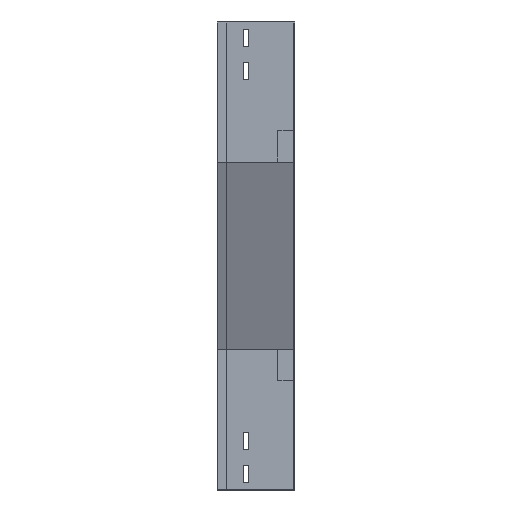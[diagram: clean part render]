
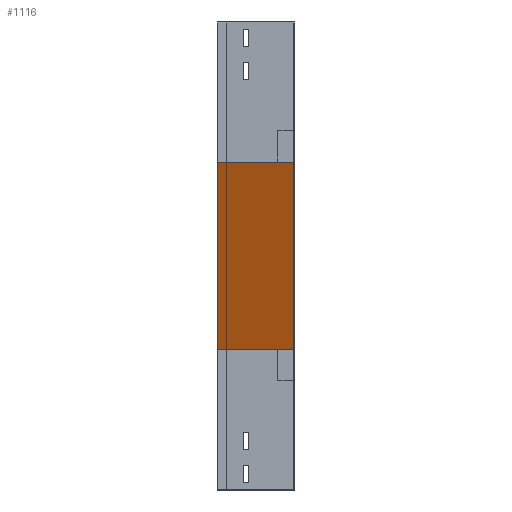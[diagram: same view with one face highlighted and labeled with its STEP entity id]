
A CAD part, left-side view. The second image highlights one B-rep face of the part: STEP entity #1116.
In plain terms, the highlighted planar face has unit normal (-0.923, 0, -0.385).
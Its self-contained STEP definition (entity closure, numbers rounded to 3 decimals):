
#244 = CARTESIAN_POINT ( 'NONE',  ( 0., 0., -180. ) ) ;
#246 = DIRECTION ( 'NONE',  ( 0.385, 0., -0.923 ) ) ;
#284 = LINE ( 'NONE', #2251, #3359 ) ;
#309 = PLANE ( 'NONE',  #2588 ) ;
#459 = CARTESIAN_POINT ( 'NONE',  ( 0., 0., -180. ) ) ;
#619 = EDGE_CURVE ( 'NONE', #1062, #752, #284, .T. ) ;
#752 = VERTEX_POINT ( 'NONE', #2364 ) ;
#853 = VECTOR ( 'NONE', #965, 1000. ) ;
#926 = ORIENTED_EDGE ( 'NONE', *, *, #1514, .F. ) ;
#965 = DIRECTION ( 'NONE',  ( 0., -1., 0. ) ) ;
#1062 = VERTEX_POINT ( 'NONE', #3077 ) ;
#1091 = VECTOR ( 'NONE', #1685, 1000. ) ;
#1116 = ADVANCED_FACE ( 'NONE', ( #1356 ), #309, .F. ) ;
#1256 = EDGE_LOOP ( 'NONE', ( #2863, #926, #2963, #1985 ) ) ;
#1321 = CARTESIAN_POINT ( 'NONE',  ( 0., 100., -180. ) ) ;
#1356 = FACE_OUTER_BOUND ( 'NONE', #1256, .T. ) ;
#1360 = EDGE_CURVE ( 'NONE', #3167, #1062, #1408, .T. ) ;
#1408 = LINE ( 'NONE', #1688, #1472 ) ;
#1472 = VECTOR ( 'NONE', #2276, 1000. ) ;
#1514 = EDGE_CURVE ( 'NONE', #2725, #3167, #2414, .T. ) ;
#1685 = DIRECTION ( 'NONE',  ( 0.385, 0., -0.923 ) ) ;
#1688 = CARTESIAN_POINT ( 'NONE',  ( 0., 0., -180. ) ) ;
#1862 = EDGE_CURVE ( 'NONE', #2725, #752, #3101, .T. ) ;
#1908 = DIRECTION ( 'NONE',  ( 0.923, 0., 0.385 ) ) ;
#1985 = ORIENTED_EDGE ( 'NONE', *, *, #619, .F. ) ;
#2040 = CARTESIAN_POINT ( 'NONE',  ( 0., 100., -180. ) ) ;
#2251 = CARTESIAN_POINT ( 'NONE',  ( 100., 0., -420. ) ) ;
#2276 = DIRECTION ( 'NONE',  ( 0.385, 0., -0.923 ) ) ;
#2364 = CARTESIAN_POINT ( 'NONE',  ( 100., 100., -420. ) ) ;
#2414 = LINE ( 'NONE', #459, #853 ) ;
#2588 = AXIS2_PLACEMENT_3D ( 'NONE', #2781, #1908, #246 ) ;
#2725 = VERTEX_POINT ( 'NONE', #1321 ) ;
#2781 = CARTESIAN_POINT ( 'NONE',  ( 0., 0., -180. ) ) ;
#2863 = ORIENTED_EDGE ( 'NONE', *, *, #1360, .F. ) ;
#2963 = ORIENTED_EDGE ( 'NONE', *, *, #1862, .T. ) ;
#3077 = CARTESIAN_POINT ( 'NONE',  ( 100., 0., -420. ) ) ;
#3100 = DIRECTION ( 'NONE',  ( 0., 1., 0. ) ) ;
#3101 = LINE ( 'NONE', #2040, #1091 ) ;
#3167 = VERTEX_POINT ( 'NONE', #244 ) ;
#3359 = VECTOR ( 'NONE', #3100, 1000. ) ;
